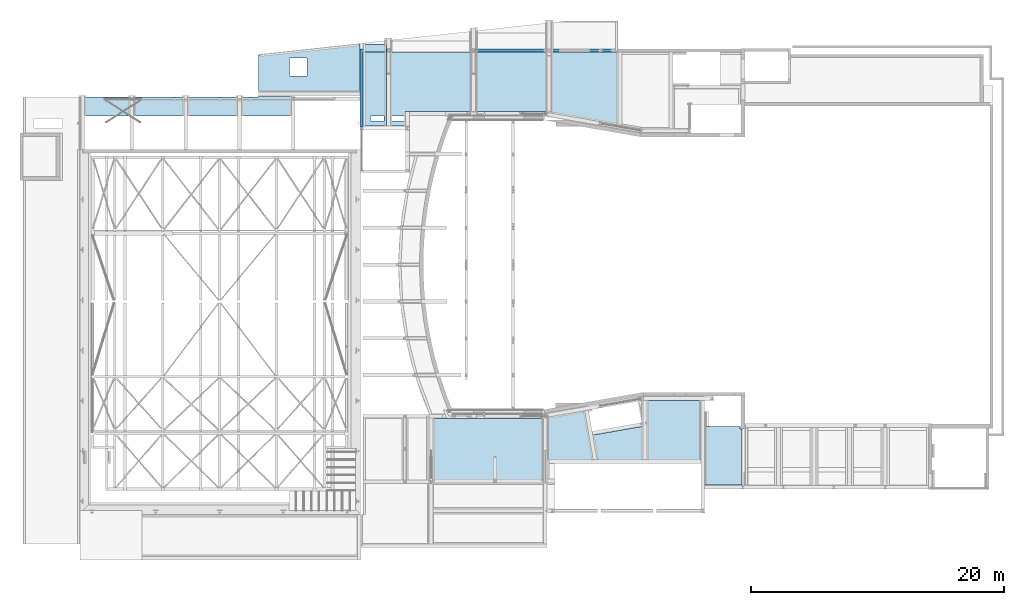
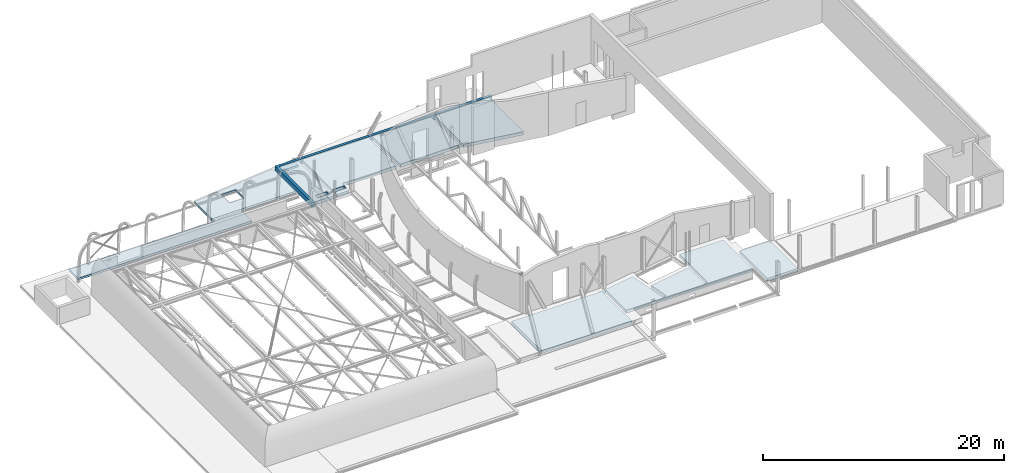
# One storey, part 30 of 38: 9 slabs, 34 openings.
"""IFC2X3 building model written with IfcOpenShell, lengths in millimetres."""

from ifc_helpers import new_model, entity, si_unit, converted_unit, derived_unit, direction, frame, frame_2d, origin, origin_2d_with_axis, place, context, subcontext, project, spatial, polyline, rectangle, outline, extrude, faceted_brep, material, layer, layer_set, layer_usage, type_object, element, save


model = new_model("IFC2X3")

# Units and contexts
model_context = context("Model", 3, precision=0.01, world=origin(), true_north=direction((6.12303176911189e-17, 1.0)))
body_context = subcontext(model_context, "Body", "Model", "MODEL_VIEW")
ifc_project = project(units=[si_unit("LENGTHUNIT", "METRE", prefix="MILLI"), si_unit("AREAUNIT", "SQUARE_METRE", prefix="MILLI"), si_unit("VOLUMEUNIT", "CUBIC_METRE"), converted_unit("PLANEANGLEUNIT", "DEGREE", entity("IfcRatioMeasure", 0.0174532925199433), si_unit("PLANEANGLEUNIT", "RADIAN"), dimensions=[0, 0, 0, 0, 0, 0, 0]), si_unit("MASSUNIT", "GRAM", prefix="KILO"), derived_unit("MASSDENSITYUNIT", [(si_unit("MASSUNIT", "GRAM", prefix="KILO"), 1), (si_unit("LENGTHUNIT", "METRE"), -3)]), derived_unit("MOMENTOFINERTIAUNIT", [(si_unit("LENGTHUNIT", "METRE"), 4)]), si_unit("TIMEUNIT", "SECOND"), si_unit("FREQUENCYUNIT", "HERTZ"), si_unit("THERMODYNAMICTEMPERATUREUNIT", "DEGREE_CELSIUS"), derived_unit("THERMALTRANSMITTANCEUNIT", [(si_unit("MASSUNIT", "GRAM", prefix="KILO"), 1), (si_unit("THERMODYNAMICTEMPERATUREUNIT", "KELVIN"), -1), (si_unit("TIMEUNIT", "SECOND"), -3)]), derived_unit("VOLUMETRICFLOWRATEUNIT", [(si_unit("LENGTHUNIT", "METRE"), 3), (si_unit("TIMEUNIT", "SECOND"), -1)]), si_unit("ELECTRICCURRENTUNIT", "AMPERE"), si_unit("ELECTRICVOLTAGEUNIT", "VOLT"), si_unit("POWERUNIT", "WATT"), si_unit("FORCEUNIT", "NEWTON", prefix="KILO"), si_unit("ILLUMINANCEUNIT", "LUX"), si_unit("LUMINOUSFLUXUNIT", "LUMEN"), si_unit("LUMINOUSINTENSITYUNIT", "CANDELA"), derived_unit("USERDEFINED", [(si_unit("MASSUNIT", "GRAM", prefix="KILO"), -1), (si_unit("LENGTHUNIT", "METRE"), -2), (si_unit("TIMEUNIT", "SECOND"), 3), (si_unit("LUMINOUSFLUXUNIT", "LUMEN"), 1)]), derived_unit("LINEARVELOCITYUNIT", [(si_unit("LENGTHUNIT", "METRE"), 1), (si_unit("TIMEUNIT", "SECOND"), -1)]), si_unit("PRESSUREUNIT", "PASCAL"), derived_unit("USERDEFINED", [(si_unit("LENGTHUNIT", "METRE"), -2), (si_unit("MASSUNIT", "GRAM", prefix="KILO"), 1), (si_unit("TIMEUNIT", "SECOND"), -2)]), derived_unit("LINEARFORCEUNIT", [(si_unit("MASSUNIT", "GRAM", prefix="KILO"), 1), (si_unit("LENGTHUNIT", "METRE"), 1), (si_unit("TIMEUNIT", "SECOND"), -2), (si_unit("LENGTHUNIT", "METRE"), -1)]), derived_unit("PLANARFORCEUNIT", [(si_unit("MASSUNIT", "GRAM", prefix="KILO"), 1), (si_unit("LENGTHUNIT", "METRE"), 1), (si_unit("TIMEUNIT", "SECOND"), -2), (si_unit("LENGTHUNIT", "METRE"), -2)])], contexts=[model_context])

# Site, building, storey
site_placement = place(None, origin())
site = spatial("IfcSite", under=ifc_project, at=site_placement, Name="Theater aan de Parade", CompositionType="ELEMENT")
building_placement = place(site_placement, origin())
building = spatial("IfcBuilding", under=site, at=building_placement, Name="Theater aan de Parade", CompositionType="ELEMENT")
storey_placement = place(building_placement, frame((0.0, 0.0, 12480.0)))
storey = spatial("IfcBuildingStorey", under=building, at=storey_placement, Name="03 derde verdieping", CompositionType="ELEMENT", Elevation=12480.0)

# Slab, openings
ifc_material_1 = material(Name="00_PBT_MAT_systeemvloer")
ifc_layer_1 = layer(ifc_material_1, 320.0)
ifc_layer_set_1 = layer_set([ifc_layer_1], Name="Floor:28_PBT_FL_kanaalplaat_d=320")
ifc_layer_usage_1 = layer_usage(ifc_layer_set_1, "AXIS3", "POSITIVE", 0.0)
slab_type_1 = type_object("IfcSlabType", Name="Floor:28_PBT_FL_kanaalplaat_d=320", PredefinedType="FLOOR", material=ifc_layer_set_1)
slab_1_placement = place(storey_placement, frame((43014.9091634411, 14982.0, -260.0)))
slab_1 = element("IfcSlab", 1, at=slab_1_placement, inside=storey, type_object=slab_type_1, material=ifc_layer_usage_1, Name="Floor:28_PBT_FL_kanaalplaat_d=320", ObjectType="Floor:28_PBT_FL_kanaalplaat_d=320", PredefinedType="FLOOR", context=body_context, shape_type="SweptSolid", body=[
    extrude(outline(polyline([(3360.27747252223, -3004.01588929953), (12390.6734687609, -3004.01588929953), (12390.6734687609, 2111.5000000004), (3609.17944804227, 2111.50000000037), (52.8321308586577, 2733.86078050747), (-276.334408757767, 759.368989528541), (-4545.65884403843, 1506.50076570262), (-4545.65884403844, 3521.50000000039), (-9108.9694433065, 3521.50000000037), (-9108.9694433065, 1287.31348587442), (-12070.6734687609, 1287.31348587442), (-12070.6734687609, 1087.31348587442), (-12220.6734687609, 1087.31348587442), (-12220.6734687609, -3463.5000000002), (-9108.96944330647, -3463.5000000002), (-9108.96944330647, -1463.49742376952), (3360.27747252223, -1463.49742376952), (3360.27747252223, -3004.01588929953)])), frame((12220.6734687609, 3351.50000000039, 320.0), z_axis=(0.0, 0.0, -1.0), x_axis=(-1.0, 0.0, 0.0)), (0.0, 0.0, 1.0), 320.000000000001),
])
opening_1_placement = place(slab_1_placement, origin())
element("IfcOpeningElement", 2, at=opening_1_placement, cuts=slab_1, ObjectType="Opening", context=body_context, shape_type="SweptSolid", body=[
    extrude(rectangle(XDim=3612.2267697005, YDim=320.000000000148, at=origin_2d_with_axis()), frame((-5866.30103335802, -4118.88661514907, -345.0), z_axis=(0.0, 0.0, 1.0), x_axis=(0.0, -1.0, 0.0)), (0.0, 0.0, 1.0), 325.0),
])
opening_2_placement = place(slab_1_placement, origin())
element("IfcOpeningElement", 3, at=opening_2_placement, cuts=slab_1, ObjectType="Opening", context=body_context, shape_type="SweptSolid", body=[
    extrude(rectangle(XDim=320.00000000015, YDim=14736.6970295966, at=origin_2d_with_axis()), frame((1642.04748144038, -4785.0, -345.0), z_axis=(0.0, 0.0, 1.0), x_axis=(0.0, 1.0, 0.0)), (0.0, 0.0, 1.0), 265.0),
])
opening_3_placement = place(slab_1_placement, origin())
element("IfcOpeningElement", 4, at=opening_3_placement, cuts=slab_1, ObjectType="Opening", context=body_context, shape_type="SweptSolid", body=[
    extrude(rectangle(XDim=320.000000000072, YDim=17725.4563461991, at=origin_2d_with_axis()), frame((30342.371085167, -160.0, -20.0), z_axis=(0.0, 0.0, 1.0), x_axis=(0.0, -1.0, 0.0)), (0.0, 0.0, 1.0), 400.0),
])
opening_4_placement = place(slab_1_placement, origin())
element("IfcOpeningElement", 5, at=opening_4_placement, cuts=slab_1, ObjectType="Opening", context=body_context, shape_type="SweptSolid", body=[
    extrude(rectangle(XDim=320.000000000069, YDim=4067.57909931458, at=origin_2d_with_axis()), frame((14599.971274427, 4478.88758398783, 0.0), z_axis=(0.0, 0.0, 1.0), x_axis=(-0.17238033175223, 0.985030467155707, 0.0)), (0.0, 0.0, 1.0), 319.999999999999),
])
opening_5_placement = place(slab_1_placement, origin())
element("IfcOpeningElement", 6, at=opening_5_placement, cuts=slab_1, ObjectType="Opening", context=body_context, shape_type="SweptSolid", body=[
    extrude(rectangle(XDim=339.999999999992, YDim=8849.55984125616, at=origin_2d_with_axis()), frame((4104.77992062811, 5463.0, 0.0), z_axis=(0.0, 0.0, 1.0), x_axis=(0.0, 1.0, 0.0)), (0.0, 0.0, 1.0), 319.999999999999),
])
opening_6_placement = place(slab_1_placement, origin())
element("IfcOpeningElement", 7, at=opening_6_placement, cuts=slab_1, ObjectType="Opening", context=body_context, shape_type="SweptSolid", body=[
    extrude(rectangle(XDim=8227.18093451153, YDim=340.000000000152, at=origin_2d_with_axis()), frame((12589.4769856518, 6159.14701886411, -5.0), z_axis=(0.0, 0.0, 1.0), x_axis=(-0.985030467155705, -0.172380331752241, 0.0)), (0.0, 0.0, 1.0), 325.0),
])
opening_7_placement = place(slab_1_placement, origin())
element("IfcOpeningElement", 8, at=opening_7_placement, cuts=slab_1, ObjectType="Opening", context=body_context, shape_type="SweptSolid", body=[
    extrude(rectangle(XDim=339.999999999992, YDim=5560.0, at=origin_2d_with_axis()), frame((19417.1429120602, 6873.0, 0.0), z_axis=(0.0, 0.0, 1.0), x_axis=(0.0, 1.0, 0.0)), (0.0, 0.0, 1.0), 319.999999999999),
])
opening_8_placement = place(slab_1_placement, origin())
element("IfcOpeningElement", 9, at=opening_8_placement, cuts=slab_1, ObjectType="Opening", context=body_context, shape_type="SweptSolid", body=[
    extrude(rectangle(XDim=339.999999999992, YDim=12169.2469158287, at=origin_2d_with_axis()), frame((15095.0194541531, 1888.00257623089, -670.0), z_axis=(0.0, 0.0, 1.0), x_axis=(0.0, -1.0, 0.0)), (0.0, 0.0, 1.0), 549.999999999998),
])
opening_9_placement = place(slab_1_placement, origin())
element("IfcOpeningElement", 10, at=opening_9_placement, cuts=slab_1, ObjectType="Opening", context=body_context, shape_type="SweptSolid", body=[
    extrude(rectangle(XDim=340.000000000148, YDim=7357.22740149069, at=origin_2d_with_axis()), frame((-170.0, -966.386299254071, -545.0), z_axis=(0.0, 0.0, 1.0), x_axis=(-1.0, 0.0, 0.0)), (0.0, 0.0, 1.0), 404.999999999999),
])
opening_10_placement = place(slab_1_placement, origin())
element("IfcOpeningElement", 11, at=opening_10_placement, cuts=slab_1, ObjectType="Opening", context=body_context, shape_type="SweptSolid", body=[
    extrude(rectangle(XDim=348.000000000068, YDim=7383.01520977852, at=origin_2d_with_axis()), frame((8860.39599623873, -953.492395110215, -460.0), z_axis=(0.0, 0.0, 1.0), x_axis=(-1.0, 0.0, 0.0)), (0.0, 0.0, 1.0), 400.0),
])
opening_11_placement = place(slab_1_placement, origin())
element("IfcOpeningElement", 12, at=opening_11_placement, cuts=slab_1, ObjectType="Opening", context=body_context, shape_type="SweptSolid", body=[
    extrude(rectangle(XDim=340.000000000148, YDim=4965.51588929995, at=origin_2d_with_axis()), frame((-170.0, 2830.24205535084, -85.0)), (0.0, 0.0, 1.0), 404.999999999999),
])
opening_12_placement = place(slab_1_placement, frame((8581.39599623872, 197.484110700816, -85.0)))
element("IfcOpeningElement", 13, at=opening_12_placement, cuts=slab_1, ObjectType="Opening", context=body_context, shape_type="Brep", body=[
    faceted_brep([(453.0, 0.0, 1.0), (453.0, 0.0, 0.0), (453.0, 5115.51588929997, 0.0), (453.0, 5115.51588929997, 1.0), (453.0, 0.0, 405.0), (453.0, 0.0, 2.0), (453.0, 5115.51588929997, 405.0), (453.0, 5115.51588929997, 2.0), (105.0, 0.0, 405.0), (105.0, 5115.51588929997, 405.0), (105.0, 0.0, 0.0), (558.0, 0.0, 1.0), (558.0, 0.0, 2.0), (105.0, 5115.51588929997, 1.0), (0.0, 5115.51588929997, 1.0), (0.0, 5115.51588929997, 2.0), (105.0, 5115.51588929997, 0.0), (558.0, 5115.51588929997, 1.0), (558.0, 5115.51588929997, 2.0), (105.0, 5115.51588929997, 2.0), (105.0, 5015.51588929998, 2.0), (105.0, 5015.51588929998, 1.0), (0.0, 5015.51588929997, 2.0), (0.0, 5015.51588929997, 1.0)], [[[0, 1, 2]], [[2, 3, 0]], [[4, 5, 6]], [[7, 6, 5]], [[8, 4, 9]], [[6, 9, 4]], [[1, 0, 10]], [[5, 10, 0]], [[11, 12, 0]], [[4, 8, 5]], [[10, 5, 8]], [[0, 12, 5]], [[13, 14, 15]], [[16, 13, 3]], [[3, 2, 16]], [[17, 3, 18]], [[13, 7, 3]], [[19, 9, 6]], [[19, 7, 13]], [[18, 3, 7]], [[6, 7, 19]], [[13, 15, 19]], [[8, 20, 10]], [[20, 8, 9]], [[10, 21, 16]], [[21, 10, 20]], [[9, 19, 20]], [[13, 16, 21]], [[1, 10, 2]], [[16, 2, 10]], [[7, 5, 12]], [[12, 18, 7]], [[17, 11, 0]], [[0, 3, 17]], [[18, 12, 11]], [[11, 17, 18]], [[22, 20, 19]], [[19, 15, 22]], [[14, 13, 21]], [[21, 23, 14]], [[22, 15, 14]], [[14, 23, 22]], [[20, 22, 23]], [[23, 21, 20]]]),
])
opening_13_placement = place(slab_1_placement, frame((11858.9947800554, 1983.83037135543, -5.0)))
element("IfcOpeningElement", 14, at=opening_13_placement, cuts=slab_1, ObjectType="Opening", context=body_context, shape_type="Brep", body=[
    faceted_brep([(784.88386919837, 18.0999348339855, 405.0), (1119.79422803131, 76.709247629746, 405.0), (103.428199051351, 3912.13233567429, 405.0), (438.338557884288, 3970.74164847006, 405.0), (1221.49862376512, 104.659487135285, 2.0), (1223.22242708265, 94.8091824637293, 2.0), (1223.22242708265, 94.8091824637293, 1.0), (1221.49862376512, 104.659487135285, 1.0), (681.455670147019, 0.0, 2.0), (681.455670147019, 0.0, 1.0), (784.88386919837, 18.0999348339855, 1.0), (1119.7942280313, 76.709247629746, 1.0), (784.88386919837, 18.0999348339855, 0.0), (1119.7942280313, 76.709247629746, 0.0), (1119.7942280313, 76.709247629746, 2.0), (784.88386919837, 18.0999348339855, 2.0), (438.338557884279, 3970.74164847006, 0.0), (103.428199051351, 3912.1323356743, 1.0), (103.428199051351, 3912.1323356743, 2.0), (103.428199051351, 3912.1323356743, 0.0), (0.0, 3894.03240084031, 1.0), (0.0, 3894.03240084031, 2.0), (1118.07042471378, 86.559552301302, 1.0), (1118.07042471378, 86.559552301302, 2.0), (783.160065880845, 27.9502395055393, 2.0), (783.160065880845, 27.9502395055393, 1.0), (105.152002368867, 3902.28203100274, 1.0), (105.152002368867, 3902.28203100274, 2.0), (1.72380331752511, 3884.18209616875, 2.0), (1.72380331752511, 3884.18209616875, 1.0), (679.731866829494, 9.85030467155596, 2.0), (679.731866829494, 9.85030467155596, 1.0)], [[[0, 1, 2]], [[3, 2, 1]], [[4, 5, 6]], [[6, 7, 4]], [[8, 9, 10]], [[11, 10, 12]], [[12, 13, 11]], [[5, 11, 6]], [[11, 14, 10]], [[1, 0, 15]], [[10, 14, 15]], [[14, 11, 5]], [[15, 14, 1]], [[15, 8, 10]], [[16, 17, 18]], [[17, 16, 19]], [[20, 21, 17]], [[18, 3, 16]], [[3, 18, 2]], [[21, 18, 17]], [[11, 13, 22]], [[1, 14, 23]], [[22, 16, 23]], [[16, 22, 13]], [[23, 3, 1]], [[3, 23, 16]], [[0, 24, 15]], [[24, 0, 2]], [[12, 10, 25]], [[12, 25, 26]], [[24, 26, 25]], [[27, 2, 18]], [[2, 27, 24]], [[26, 17, 19]], [[26, 19, 12]], [[27, 26, 24]], [[13, 12, 16]], [[19, 16, 12]], [[28, 27, 18]], [[18, 21, 28]], [[20, 17, 26]], [[26, 29, 20]], [[28, 21, 20]], [[20, 29, 28]], [[27, 28, 29]], [[29, 26, 27]], [[23, 14, 5]], [[5, 4, 23]], [[7, 6, 11]], [[11, 22, 7]], [[23, 4, 7]], [[7, 22, 23]], [[30, 8, 15]], [[15, 24, 30]], [[25, 10, 9]], [[9, 31, 25]], [[30, 24, 25]], [[25, 31, 30]], [[8, 30, 31]], [[31, 9, 8]]]),
])
opening_14_placement = place(slab_1_placement, frame((21050.6429120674, -2167.0, -85.0)))
element("IfcOpeningElement", 15, at=opening_14_placement, cuts=slab_1, ObjectType="Opening", context=body_context, shape_type="Brep", body=[
    faceted_brep([(105.0, 0.0, 405.0), (453.0, 0.0, 405.0), (453.0, 8890.0, 405.0), (105.0, 8890.0, 405.0), (105.0, 0.0, 0.0), (453.0, 0.0, 0.0), (453.0, 8890.0, 0.0), (105.0, 8890.0, 1.0), (105.0, 8890.0, 2.0), (105.0, 8890.0, 0.0), (0.0, 8890.0, 1.0), (0.0, 8890.0, 2.0), (105.0, 8790.0, 2.0), (105.0, 8790.0, 1.0), (0.0, 8790.0, 2.0), (0.0, 8790.0, 1.0)], [[[0, 1, 2]], [[2, 3, 0]], [[0, 4, 5]], [[5, 1, 0]], [[6, 7, 8]], [[7, 6, 9]], [[10, 11, 7]], [[8, 2, 6]], [[2, 8, 3]], [[11, 8, 7]], [[1, 5, 2]], [[6, 2, 5]], [[0, 12, 4]], [[12, 0, 3]], [[4, 13, 9]], [[13, 4, 12]], [[3, 8, 12]], [[7, 9, 13]], [[5, 4, 9]], [[9, 6, 5]], [[14, 12, 8]], [[8, 11, 14]], [[10, 7, 13]], [[13, 15, 10]], [[14, 11, 10]], [[10, 15, 14]], [[12, 14, 15]], [[15, 13, 12]]]),
])
opening_15_placement = place(slab_1_placement, frame((16491.3323127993, 2038.00257623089, -5.0)))
element("IfcOpeningElement", 16, at=opening_15_placement, cuts=slab_1, ObjectType="Opening", context=body_context, shape_type="Brep", body=[
    faceted_brep([(105.0, 0.0, 405.0), (445.0, 0.0, 405.0), (105.0, 4684.99742376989, 405.0), (445.0, 4684.99742376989, 405.0), (550.0, 4684.99742376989, 2.0), (550.0, 4674.99742376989, 2.0), (550.0, 4674.99742376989, 1.0), (550.0, 4684.99742376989, 1.0), (550.0, 10.0, 2.0), (550.0, 0.0, 2.0), (550.0, 0.0, 1.0), (550.0, 10.0, 1.0), (0.0, 0.0, 2.0), (0.0, 0.0, 1.0), (105.0, 0.0, 1.0), (445.0, 0.0, 1.0), (105.0, 0.0, 0.0), (445.0, 0.0, 0.0), (445.0, 0.0, 2.0), (105.0, 0.0, 2.0), (105.0, 4684.99742376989, 1.0), (0.0, 4684.99742376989, 1.0), (0.0, 4684.99742376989, 2.0), (105.0, 4684.99742376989, 0.0), (445.0, 4684.99742376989, 1.0), (445.0, 4684.99742376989, 0.0), (445.0, 4684.99742376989, 2.0), (105.0, 4684.99742376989, 2.0), (445.0, 10.0, 1.0), (445.0, 4674.99742376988, 1.0), (445.0, 10.0, 2.0), (445.0, 4674.99742376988, 2.0), (105.0, 10.0, 2.0), (105.0, 2604.99742376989, 2.0), (105.0, 10.0, 1.0), (105.0, 2604.99742376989, 1.0), (0.0, 2604.99742376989, 2.0), (0.0, 2604.99742376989, 1.0), (0.0, 10.0, 2.0), (0.0, 10.0, 1.0)], [[[0, 1, 2]], [[3, 2, 1]], [[4, 5, 6]], [[6, 7, 4]], [[8, 9, 10]], [[10, 11, 8]], [[12, 13, 14]], [[15, 14, 16]], [[16, 17, 15]], [[9, 15, 10]], [[15, 18, 14]], [[1, 0, 19]], [[14, 18, 19]], [[18, 15, 9]], [[19, 18, 1]], [[19, 12, 14]], [[20, 21, 22]], [[23, 20, 24]], [[24, 25, 23]], [[7, 24, 4]], [[20, 26, 24]], [[27, 2, 3]], [[27, 26, 20]], [[4, 24, 26]], [[3, 26, 27]], [[20, 22, 27]], [[17, 28, 15]], [[28, 17, 29]], [[1, 18, 30]], [[1, 30, 3]], [[28, 31, 30]], [[29, 25, 24]], [[25, 29, 17]], [[31, 26, 3]], [[31, 3, 30]], [[29, 31, 28]], [[0, 32, 19]], [[32, 0, 33]], [[16, 14, 34]], [[16, 34, 35]], [[32, 33, 34]], [[33, 2, 27]], [[2, 33, 0]], [[35, 20, 23]], [[35, 23, 16]], [[33, 35, 34]], [[17, 16, 25]], [[23, 25, 16]], [[26, 31, 4]], [[5, 4, 31]], [[7, 6, 29]], [[29, 24, 7]], [[5, 31, 29]], [[29, 6, 5]], [[36, 33, 27]], [[27, 22, 36]], [[21, 20, 37]], [[35, 37, 20]], [[36, 22, 21]], [[21, 37, 36]], [[33, 36, 37]], [[37, 35, 33]], [[30, 18, 9]], [[9, 8, 30]], [[11, 10, 15]], [[15, 28, 11]], [[30, 8, 11]], [[11, 28, 30]], [[38, 12, 19]], [[19, 32, 38]], [[34, 14, 13]], [[13, 39, 34]], [[38, 32, 34]], [[34, 39, 38]], [[12, 38, 39]], [[39, 13, 12]]]),
])
opening_16_placement = place(slab_1_placement, origin())
element("IfcOpeningElement", 17, at=opening_16_placement, cuts=slab_1, ObjectType="Opening", context=body_context, shape_type="SweptSolid", body=[
    extrude(rectangle(XDim=8730.3959962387, YDim=340.000000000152, at=origin_2d_with_axis()), frame((4345.19799811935, 347.484110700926, -345.0), z_axis=(0.0, 0.0, 1.0), x_axis=(-1.0, 0.0, 0.0)), (0.0, 0.0, 1.0), 319.999999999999),
])

ifc_layer_2 = layer(ifc_material_1, 200.0)
ifc_layer_set_2 = layer_set([ifc_layer_2], Name="Floor:28_PBT_FL_kanaalplaat_d=200")
ifc_layer_usage_2 = layer_usage(ifc_layer_set_2, "AXIS3", "POSITIVE", 0.0)
slab_type_2 = type_object("IfcSlabType", Name="Floor:28_PBT_FL_kanaalplaat_d=200", PredefinedType="FLOOR")
slab_2_placement = place(storey_placement, frame((29188.8975663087, 46120.0, -600.0)))
slab_2 = element("IfcSlab", 18, at=slab_2_placement, inside=storey, type_object=slab_type_2, material=ifc_layer_usage_2, Name="Floor:28_PBT_FL_kanaalplaat_d=200", ObjectType="Floor:28_PBT_FL_kanaalplaat_d=200", PredefinedType="FLOOR", context=body_context, shape_type="SweptSolid", body=[
    extrude(outline(polyline([(14218.5731462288, 324.971579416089), (6203.61258245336, 1194.657421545), (6203.61258245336, -2761.23177698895), (14218.5731462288, -2761.23177698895), (14218.5731462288, 324.971579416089)])), frame((14218.5731462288, 2591.2317769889, 200.0), z_axis=(0.0, 0.0, -1.0), x_axis=(-1.0, 0.0, 0.0)), (0.0, 0.0, 1.0), 200.0),
])
placement_1 = place(slab_2_placement, origin())
element("IfcOpeningElement", 19, at=placement_1, cuts=slab_2, ObjectType="Opening", context=body_context, shape_type="SweptSolid", body=[
    extrude(rectangle(XDim=1400.0, YDim=1400.0, at=origin_2d_with_axis()), frame((3136.10243369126, 1970.1873789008, 0.0), z_axis=(0.0, 0.0, 1.0), x_axis=(-1.0, 0.0, 0.0)), (0.0, 0.0, 1.0), 200.0),
])
placement_2 = place(slab_2_placement, origin())
element("IfcOpeningElement", 20, at=placement_2, cuts=slab_2, ObjectType="Opening", context=body_context, shape_type="SweptSolid", body=[
    extrude(rectangle(XDim=340.000000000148, YDim=8014.96060777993, at=origin_2d_with_axis()), frame((4007.48030388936, -170.0, -205.0), z_axis=(0.0, 0.0, 1.0), x_axis=(0.0, 1.0, 0.0)), (0.0, 0.0, 1.0), 414.999999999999),
])

slab_type_3 = type_object("IfcSlabType", Name="Floor:28_PBT_FL_kanaalplaat_d=200", PredefinedType="FLOOR")
slab_3_placement = place(storey_placement, frame((29188.8975663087, 46120.0, -600.0)))
slab_3 = element("IfcSlab", 21, at=slab_3_placement, inside=storey, type_object=slab_type_3, material=ifc_layer_usage_2, Name="Floor:28_PBT_FL_kanaalplaat_d=200:2", ObjectType="Floor:28_PBT_FL_kanaalplaat_d=200", PredefinedType="FLOOR", context=body_context, shape_type="SweptSolid", body=[
    extrude(rectangle(XDim=600.000000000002, YDim=1788.30912742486, at=frame_2d((5009.45801874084, 850.766213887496), x_axis=(0.0, 1.0))), frame((14218.5731462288, 2591.2317769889, 200.0), z_axis=(0.0, 0.0, -1.0), x_axis=(-1.0, 0.0, 0.0)), (0.0, 0.0, 1.0), 200.0),
])
element("IfcOpeningElement", 22, at=placement_1, cuts=slab_3, ObjectType="Opening", context=body_context, shape_type="SweptSolid", body=[
    extrude(rectangle(XDim=1400.0, YDim=1400.0, at=origin_2d_with_axis()), frame((3136.10243369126, 1970.1873789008, 0.0), z_axis=(0.0, 0.0, 1.0), x_axis=(-1.0, 0.0, 0.0)), (0.0, 0.0, 1.0), 200.0),
])
element("IfcOpeningElement", 23, at=placement_2, cuts=slab_3, ObjectType="Opening", context=body_context, shape_type="SweptSolid", body=[
    extrude(rectangle(XDim=340.000000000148, YDim=8014.96060777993, at=origin_2d_with_axis()), frame((4007.48030388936, -170.0, -205.0), z_axis=(0.0, 0.0, 1.0), x_axis=(0.0, 1.0, 0.0)), (0.0, 0.0, 1.0), 414.999999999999),
])

ifc_layer_usage_3 = layer_usage(ifc_layer_set_1, "AXIS3", "POSITIVE", 0.0)
slab_type_4 = type_object("IfcSlabType", Name="Floor:28_PBT_FL_kanaalplaat_d=320", PredefinedType="FLOOR")
slab_4_placement = place(storey_placement, frame((37503.8581300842, 43400.0, -260.0)))
slab_4 = element("IfcSlab", 24, at=slab_4_placement, inside=storey, type_object=slab_type_4, material=ifc_layer_usage_3, Name="Floor:28_PBT_FL_kanaalplaat_d=320", ObjectType="Floor:28_PBT_FL_kanaalplaat_d=320", PredefinedType="FLOOR", context=body_context, shape_type="SweptSolid", body=[
    extrude(rectangle(XDim=5861.99799087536, YDim=1788.30912742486, at=frame_2d((9162.43215290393, 0.0), x_axis=(0.0, 1.0))), frame((10056.5867166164, 2930.99899543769, 320.0), z_axis=(0.0, 0.0, -1.0), x_axis=(-1.0, 0.0, 0.0)), (0.0, 0.0, 1.0), 320.000000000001),
])
placement_3 = place(slab_4_placement, origin())
element("IfcOpeningElement", 25, at=placement_3, cuts=slab_4, ObjectType="Opening", context=body_context, shape_type="SweptSolid", body=[
    extrude(rectangle(XDim=340.000000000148, YDim=5867.3948973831, at=origin_2d_with_axis()), frame((20283.1734332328, 3017.86703612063, -5.0), z_axis=(0.0, 0.0, 1.0), x_axis=(-1.0, 0.0, 0.0)), (0.0, 0.0, 1.0), 325.0),
])
placement_4 = place(slab_4_placement, origin())
element("IfcOpeningElement", 26, at=placement_4, cuts=slab_4, ObjectType="Opening", context=body_context, shape_type="SweptSolid", body=[
    extrude(rectangle(XDim=10752.6573067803, YDim=339.999999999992, at=origin_2d_with_axis()), frame((8999.02865080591, 995.0, -5.0), z_axis=(0.0, 0.0, 1.0), x_axis=(-1.0, 0.0, 0.0)), (0.0, 0.0, 1.0), 325.0),
])
placement_5 = place(slab_4_placement, origin())
element("IfcOpeningElement", 27, at=placement_5, cuts=slab_4, ObjectType="Opening", context=body_context, shape_type="SweptSolid", body=[
    extrude(rectangle(XDim=340.0000000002, YDim=7920.00000000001, at=origin_2d_with_axis()), frame((18244.1783141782, 288.714179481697, -5.0), z_axis=(0.0, 0.0, 1.0), x_axis=(0.172380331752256, 0.985030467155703, 0.0)), (0.0, 0.0, 1.0), 325.0),
])
opening_24_placement = place(slab_4_placement, frame((1073.72494167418, 597.62035162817, 320.0)))
element("IfcOpeningElement", 28, at=opening_24_placement, cuts=slab_4, Name="Floor:28_PBT_FL_kanaalplaat_d=320:2", ObjectType="Opening", context=body_context, shape_type="SweptSolid", body=[
    extrude(rectangle(XDim=1099.16837150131, YDim=384.556317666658, at=origin_2d_with_axis()), frame((0.0, 0.0, 0.0), z_axis=(0.0, 0.0, -1.0), x_axis=(1.0, 0.0, 0.0)), (0.0, 0.0, 1.0), 320.000000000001),
])

slab_type_5 = type_object("IfcSlabType", Name="Floor:28_PBT_FL_kanaalplaat_d=320", PredefinedType="FLOOR")
slab_5_placement = place(storey_placement, frame((37503.8581300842, 43400.0, -260.0)))
slab_5 = element("IfcSlab", 29, at=slab_5_placement, inside=storey, type_object=slab_type_5, material=ifc_layer_usage_3, Name="Floor:28_PBT_FL_kanaalplaat_d=320:2", ObjectType="Floor:28_PBT_FL_kanaalplaat_d=320", PredefinedType="FLOOR", context=body_context, shape_type="SweptSolid", body=[
    extrude(outline(polyline([(1532.77603637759, -1765.99899543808), (6766.5867192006, -1765.99899543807), (6766.5867192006, -2930.99899543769), (7928.27758919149, -2930.99899543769), (7928.27758919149, 2930.99899543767), (1532.77603637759, 2930.99899543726), (1532.77603637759, -1765.99899543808)])), frame((10056.5867166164, 2930.99899543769, 320.0), z_axis=(0.0, 0.0, -1.0), x_axis=(-1.0, 0.0, 0.0)), (0.0, 0.0, 1.0), 320.000000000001),
])
element("IfcOpeningElement", 30, at=placement_3, cuts=slab_5, ObjectType="Opening", context=body_context, shape_type="SweptSolid", body=[
    extrude(rectangle(XDim=340.000000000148, YDim=5867.3948973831, at=origin_2d_with_axis()), frame((20283.1734332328, 3017.86703612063, -5.0), z_axis=(0.0, 0.0, 1.0), x_axis=(-1.0, 0.0, 0.0)), (0.0, 0.0, 1.0), 325.0),
])
element("IfcOpeningElement", 31, at=placement_4, cuts=slab_5, ObjectType="Opening", context=body_context, shape_type="SweptSolid", body=[
    extrude(rectangle(XDim=10752.6573067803, YDim=339.999999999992, at=origin_2d_with_axis()), frame((8999.02865080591, 995.0, -5.0), z_axis=(0.0, 0.0, 1.0), x_axis=(-1.0, 0.0, 0.0)), (0.0, 0.0, 1.0), 325.0),
])
element("IfcOpeningElement", 32, at=placement_5, cuts=slab_5, ObjectType="Opening", context=body_context, shape_type="SweptSolid", body=[
    extrude(rectangle(XDim=340.0000000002, YDim=7920.00000000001, at=origin_2d_with_axis()), frame((18244.1783141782, 288.714179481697, -5.0), z_axis=(0.0, 0.0, 1.0), x_axis=(0.172380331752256, 0.985030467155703, 0.0)), (0.0, 0.0, 1.0), 325.0),
])
opening_28_placement = place(slab_4_placement, frame((2702.58335110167, 597.620351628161, 320.0)))
element("IfcOpeningElement", 33, at=opening_28_placement, cuts=slab_5, Name="Floor:28_PBT_FL_kanaalplaat_d=320:2", ObjectType="Opening", context=body_context, shape_type="SweptSolid", body=[
    extrude(rectangle(XDim=1099.16837150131, YDim=384.556317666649, at=origin_2d_with_axis()), frame((0.0, 0.0, 0.0), z_axis=(0.0, 0.0, -1.0), x_axis=(1.0, 0.0, 0.0)), (0.0, 0.0, 1.0), 320.000000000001),
])

slab_type_6 = type_object("IfcSlabType", Name="Floor:28_PBT_FL_kanaalplaat_d=320", PredefinedType="FLOOR")
slab_6_placement = place(storey_placement, frame((37503.8581300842, 43400.0, -260.0)))
slab_6 = element("IfcSlab", 34, at=slab_6_placement, inside=storey, type_object=slab_type_6, material=ifc_layer_usage_3, Name="Floor:28_PBT_FL_kanaalplaat_d=320:3", ObjectType="Floor:28_PBT_FL_kanaalplaat_d=320", PredefinedType="FLOOR", context=body_context, shape_type="SweptSolid", body=[
    extrude(outline(polyline([(-4449.6798297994, -1988.15025659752), (-4151.67262317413, -1935.9989954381), (1192.77603637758, -1935.99899543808), (1192.77603637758, 2930.99899543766), (-4449.6798297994, 2930.99899543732), (-4449.6798297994, -1988.15025659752)])), frame((10056.5867166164, 2930.99899543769, 320.0), z_axis=(0.0, 0.0, -1.0), x_axis=(-1.0, 0.0, 0.0)), (0.0, 0.0, 1.0), 320.000000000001),
])
element("IfcOpeningElement", 35, at=placement_3, cuts=slab_6, ObjectType="Opening", context=body_context, shape_type="SweptSolid", body=[
    extrude(rectangle(XDim=340.000000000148, YDim=5867.3948973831, at=origin_2d_with_axis()), frame((20283.1734332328, 3017.86703612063, -5.0), z_axis=(0.0, 0.0, 1.0), x_axis=(-1.0, 0.0, 0.0)), (0.0, 0.0, 1.0), 325.0),
])
element("IfcOpeningElement", 36, at=placement_4, cuts=slab_6, ObjectType="Opening", context=body_context, shape_type="SweptSolid", body=[
    extrude(rectangle(XDim=10752.6573067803, YDim=339.999999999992, at=origin_2d_with_axis()), frame((8999.02865080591, 995.0, -5.0), z_axis=(0.0, 0.0, 1.0), x_axis=(-1.0, 0.0, 0.0)), (0.0, 0.0, 1.0), 325.0),
])
element("IfcOpeningElement", 37, at=placement_5, cuts=slab_6, ObjectType="Opening", context=body_context, shape_type="SweptSolid", body=[
    extrude(rectangle(XDim=340.0000000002, YDim=7920.00000000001, at=origin_2d_with_axis()), frame((18244.1783141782, 288.714179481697, -5.0), z_axis=(0.0, 0.0, 1.0), x_axis=(0.172380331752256, 0.985030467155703, 0.0)), (0.0, 0.0, 1.0), 325.0),
])

slab_type_7 = type_object("IfcSlabType", Name="Floor:28_PBT_FL_kanaalplaat_d=320", PredefinedType="FLOOR", material=ifc_layer_set_1)
slab_7_placement = place(storey_placement, frame((37503.8581300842, 43400.0, -260.0)))
slab_7 = element("IfcSlab", 38, at=slab_7_placement, inside=storey, type_object=slab_type_7, material=ifc_layer_usage_3, Name="Floor:28_PBT_FL_kanaalplaat_d=320:4", ObjectType="Floor:28_PBT_FL_kanaalplaat_d=320", PredefinedType="FLOOR", context=body_context, shape_type="SweptSolid", body=[
    extrude(outline(polyline([(-10226.5867166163, 2930.99899543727), (-10226.5867166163, -2999.10896179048), (-4789.67982979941, -2047.65025659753), (-4789.67982979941, 2930.99899543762), (-10226.5867166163, 2930.99899543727)])), frame((10056.5867166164, 2930.99899543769, 320.0), z_axis=(0.0, 0.0, -1.0), x_axis=(-1.0, 0.0, 0.0)), (0.0, 0.0, 1.0), 320.000000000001),
])
element("IfcOpeningElement", 39, at=placement_3, cuts=slab_7, ObjectType="Opening", context=body_context, shape_type="SweptSolid", body=[
    extrude(rectangle(XDim=340.000000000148, YDim=5867.3948973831, at=origin_2d_with_axis()), frame((20283.1734332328, 3017.86703612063, -5.0), z_axis=(0.0, 0.0, 1.0), x_axis=(-1.0, 0.0, 0.0)), (0.0, 0.0, 1.0), 325.0),
])
element("IfcOpeningElement", 40, at=placement_4, cuts=slab_7, ObjectType="Opening", context=body_context, shape_type="SweptSolid", body=[
    extrude(rectangle(XDim=10752.6573067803, YDim=339.999999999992, at=origin_2d_with_axis()), frame((8999.02865080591, 995.0, -5.0), z_axis=(0.0, 0.0, 1.0), x_axis=(-1.0, 0.0, 0.0)), (0.0, 0.0, 1.0), 325.0),
])
element("IfcOpeningElement", 41, at=placement_5, cuts=slab_7, ObjectType="Opening", context=body_context, shape_type="SweptSolid", body=[
    extrude(rectangle(XDim=340.0000000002, YDim=7920.00000000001, at=origin_2d_with_axis()), frame((18244.1783141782, 288.714179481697, -5.0), z_axis=(0.0, 0.0, 1.0), x_axis=(0.172380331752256, 0.985030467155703, 0.0)), (0.0, 0.0, 1.0), 325.0),
])

# Slabs
ifc_material_2 = material(Name="00_PBT_MAT_beton t.p.g._C30/37")
ifc_layer_3 = layer(ifc_material_2, 520.0)
ifc_layer_set_3 = layer_set([ifc_layer_3], Name="Floor:28_PBT_FL_beton t.p.g._d=520_C30/37")
ifc_layer_usage_4 = layer_usage(ifc_layer_set_3, "AXIS3", "POSITIVE", 0.0)
slab_type_8 = type_object("IfcSlabType", Name="Floor:28_PBT_FL_beton t.p.g._d=520_C30/37", PredefinedType="FLOOR", material=ifc_layer_set_3)
slab_8_placement = place(storey_placement, origin())
element("IfcSlab", 42, at=slab_8_placement, inside=storey, type_object=slab_type_8, material=ifc_layer_usage_4, Name="Floor:28_PBT_FL_beton t.p.g._d=520_C30/37", ObjectType="Floor:28_PBT_FL_beton t.p.g._d=520_C30/37", PredefinedType="FLOOR", context=body_context, shape_type="SweptSolid", body=[
    extrude(outline(polyline([(-4024.6653272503, -6977.72447774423), (2137.33266362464, -6977.72447774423), (2137.33266362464, 13705.4489554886), (1887.332663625, 13705.4489554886), (1887.3326636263, -6727.7244777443), (-4024.6653272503, -6727.7244777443), (-4024.6653272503, -6977.72447774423)])), frame((44181.5826078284, 47374.6653272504, 120.0), z_axis=(0.0, 0.0, -1.0), x_axis=(0.0, 1.0, 0.0)), (0.0, 0.0, 1.0), 520.000000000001),
])
ifc_layer_4 = layer(ifc_material_1, 200.0)
ifc_layer_set_4 = layer_set([ifc_layer_4], Name="Floor:28_PBT_FL_massieve plaat_d=200")
ifc_layer_usage_5 = layer_usage(ifc_layer_set_4, "AXIS3", "POSITIVE", 0.0)
slab_type_9 = type_object("IfcSlabType", Name="Floor:28_PBT_FL_massieve plaat_d=200", PredefinedType="FLOOR", material=ifc_layer_set_4)
slab_9_placement = place(storey_placement, origin())
element("IfcSlab", 43, at=slab_9_placement, inside=storey, type_object=slab_type_9, material=ifc_layer_usage_5, Name="Floor:28_PBT_FL_massieve plaat_d=200", ObjectType="Floor:28_PBT_FL_massieve plaat_d=200", PredefinedType="FLOOR", context=body_context, shape_type="SweptSolid", body=[
    extrude(outline(polyline([(-1025.46111526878, -10204.7349241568), (474.230557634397, -10204.7349241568), (474.230557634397, 3730.30500784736), (551.230557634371, 3730.30500784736), (551.230557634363, 6474.4299163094), (-1025.46111526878, 6474.4299163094), (-1025.46111526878, -10204.7349241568)])), frame((25458.5925584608, 45248.7694423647, -400.0), z_axis=(0.0, 0.0, -1.0), x_axis=(0.0, 1.0, 0.0)), (0.0, 0.0, 1.0), 200.0),
])

save(model, "model.ifc")
